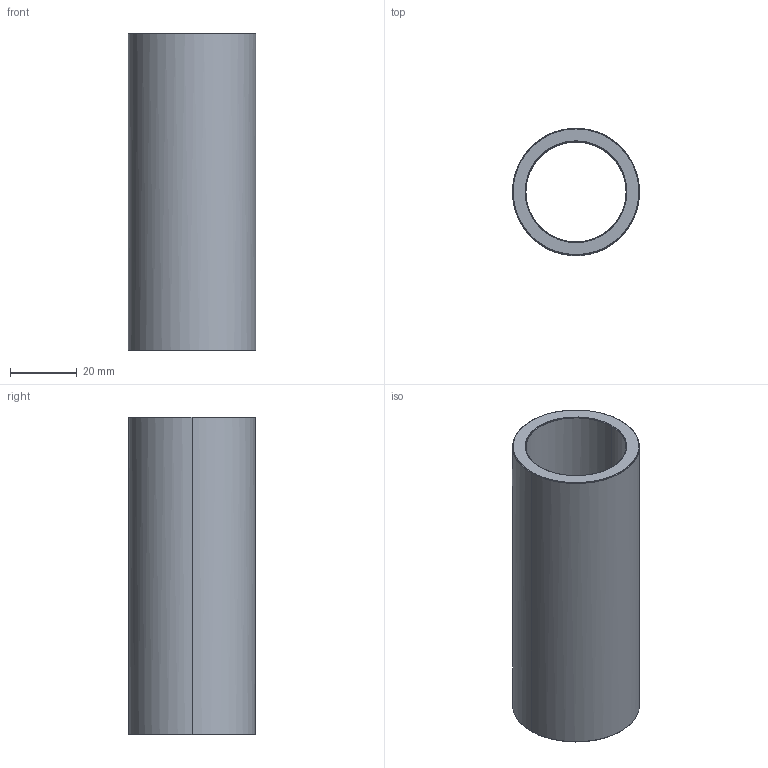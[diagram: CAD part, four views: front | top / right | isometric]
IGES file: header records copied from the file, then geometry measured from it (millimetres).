
Start section: Write IGES format                                    datakit 2008 (c)
Global section: file name: Unknown; native system: DATAKIT Converter; preprocessor: Unknown; author: Unknown; organization: Unknown; date: 950613.180003; units: millimetre
Bounding box: 38 x 37.97 x 95 mm (x, y, z)
Surface area: 21099.1 mm2 (no closed solid volume)
Topology: 0 solids, 0 shells, 14 faces, 56 edges, 56 vertices
Faces by surface type: revolution 12, bspline 2
